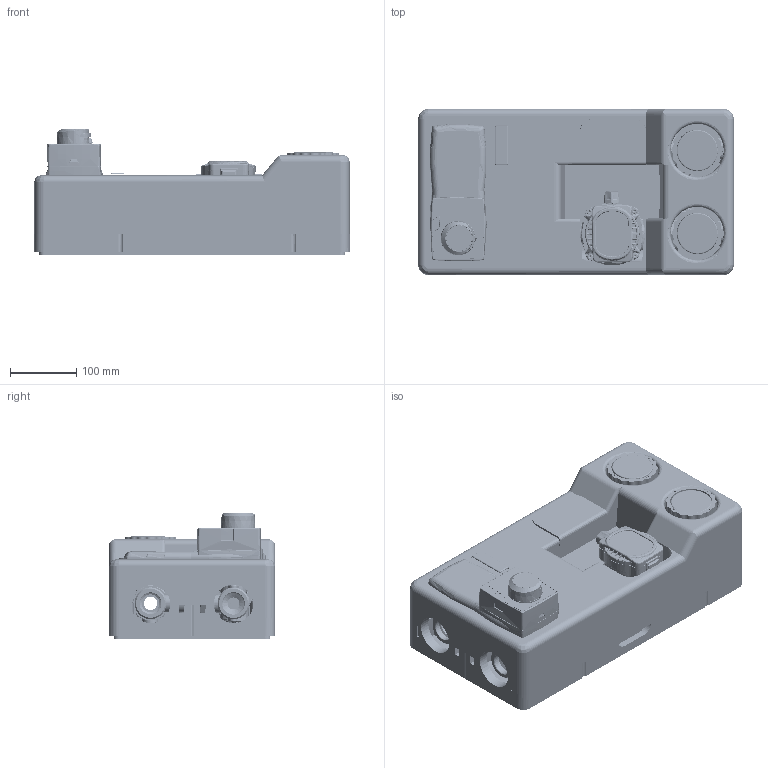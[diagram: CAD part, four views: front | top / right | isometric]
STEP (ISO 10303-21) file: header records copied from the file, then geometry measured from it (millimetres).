
FILE_DESCRIPTION (( 'STEP AP214' ), '1' );
FILE_NAME ('7733720.STEP', '2022-10-24T08:04:39', ( '' ), ( '' ), 'SwSTEP 2.0', 'SolidWorks 2022', '' );
FILE_SCHEMA (( 'AUTOMOTIVE_DESIGN' ));
Length unit declared in the file: millimetre
Products named in the file (162): M9120084_V2; VORLAUFSTRANG; M9120076; Spindel f. Kugelhahn DN 20_05 00 410518; Mitnahme-Blech_05 00 410240_2; 05 00 32 11_ R_X_FCcklaufstrang PrimoTherm vorm.; STEG_11; AFRISO; ZAHNSCHEIBE_906797 8400_2; ACT343_195szerokosci; 900085 5010_Flakoschr. ISO7045 M5x10-4,8-Z; 760 000 0162_Flachdichtung 44x32x2 F 391; STEG_16; Unterteil _X_DCberarbeitet_05 00 410612; Scheibe_24_Scheiben_0; STEG_22; M9120008_1; 05 00 410237__X_DCberwurfmutter G1 1_2_2; ISO 4032-M8-10_Sechskantmuttern_0; STEG_26; Mitnahme-Blech_05 00 410240; STEG_24; Einschraubk_X_F6rper G 1 1_2- M33x1,5_05 00 410504; DRUCK; Sprengring DIN 7993-A28 (Welle _X_D828)_907993 2802 __0; STEG_9; 05 01 000474_T-St_X_FCck DN25 vorm.; ISO 4032-M8-10_Sechskantmuttern_0_2; HANDRAD_05 00 410222_2; 05 01 000392_Mischergeh_X_E4use DN 25; STEGE; ZIFFERBLATT; 760 000 0163_Flachdi.  _X_F830x23x2 F 391; Einleger 2_2_05 00 410617; 0_0_0_2; 907380 0001_FKS-DIN7380_2-10.9-TX20-(A2K)-M4X12_0_2; 05 01 000476_Halteplatte f. Stellmotor; Geh_X_E4use Kugelhahn m. Flansch DN 20_2; STEG; Ring-blau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
Assembly tree (161 placements, depth 10):
  7733720
    PrimoTherm 180-2 DN25 3WM-SM Vario_77300
      R_X_DCCKLAUFSTRANG
        05 00 32 11_ R_X_FCcklaufstrang PrimoTherm vorm.
          05 00 410412_05 00 410112
            Einschraubk_X_F6rper_05 00 410483
            Geh_X_E4use Kugelhahn m. Flansch DN 20
          HANDRAD_05 00 410222
            HANDRAD_05 00 410222
            STEGE
            0_0_0
              0_0_0_2
                STEG
                STEG_2
                STEG_3
                0_0_0_3
                  STEG_4
                  STEG_5
              0_0_0_4
                STEG_6
                STEG_7
                STEG_8
                STEG_9
              0_0_0_5
                STEG_10
                STEG_11
                STEG_12
                STEG_13
            Tauchh_X_FClse_05 00 410223
            ZAHNSCHEIBE_906797 8400
            Mitnahme-Blech_05 00 410240
              BLECHLASCHE
          Mutter DIN 3292 - G 1 1_2 NE_05 00 410237
          DICHTUNG 11_2_760 330 2080
          Distanzrohr G1 1_2 x 282mm_05 00 000249
        05 00 41 87_Bi-Th NG63 0-120_X_B0C blau RSK
          zifferblatt_Baugruppe_0
            DECKGLAS
            ZIFFERBLATT
            ZEIGER
            Bedruckung02
            Ring-blau
            Bedruckung
              Bedruckung
              Afriso Logo
        05 00 410237__X_DCberwurfmutter G1 1_2
        760 000 0162_Flachdichtung 44x32x2 F391
      VORLAUFSTRANG
        760 000 0162_Flachdichtung 44x32x2 F 391
        760 000 0162_Flachdichtung 44x32x2 F391_2
        760 000 0162_Flachdichtung 44x32x2 F391_3
        05 00 41 20_Bi-Th. NG63 0-120_X_B0C rot_0
          DECKGLAS_2
          ZIFFERBLATT_2
          ZEIGER_2
          DRUCK
        05 00 410237__X_DCberwurfmutter G1 1_2_2
        05 00 410237__X_DCberwurfmutter G1 1_2_3
        05 00 410237__X_DCberwurfmutter G1 1_2_4
        05 00 410505_Pumpenkugelhahn G1 1_2xFlansch
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Bounding box: 475 x 250.01 x 190.41 mm (x, y, z)
Volume: 8840530.6 mm3; surface area: 1695011.7 mm2
Topology: 257 solids, 259 shells, 18099 faces, 47622 edges, 28948 vertices
Faces by surface type: plane 5512, bspline 5418, cylinder 4681, cone 1516, torus 740, sphere 232
Entity records: 1112459 total; most frequent: CARTESIAN_POINT 521810, ORIENTED_EDGE 92402, DIRECTION 63777, EDGE_CURVE 46205, VERTEX_POINT 28895, AXIS2_PLACEMENT_3D 23574, EDGE_LOOP 18738, UNCERTAINTY_MEASURE_WITH_UNIT 18349
